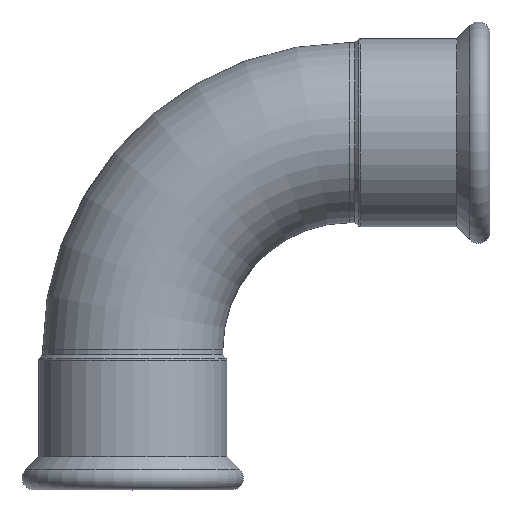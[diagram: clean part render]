
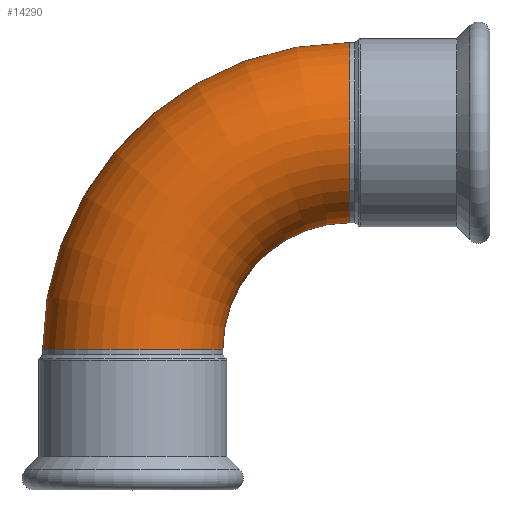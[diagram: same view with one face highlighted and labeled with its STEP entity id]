
A CAD part, top view. The second image highlights one B-rep face of the part: STEP entity #14290.
In plain terms, the highlighted toroidal (fillet/blend) face has major radius 130 mm and minor radius 54 mm.
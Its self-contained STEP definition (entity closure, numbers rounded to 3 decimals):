
#13630=CARTESIAN_POINT('',(1.,54.,0.));
#13640=VERTEX_POINT('',#13630);
#13730=CARTESIAN_POINT('',(1.,-54.,0.))
;
#13740=VERTEX_POINT('',#13730);
#13770=CARTESIAN_POINT('',(1.,0.,0.));
#13780=DIRECTION('',(1.,0.,0.));
#13790=DIRECTION('',(0.,-1.,0.));
#13800=AXIS2_PLACEMENT_3D('',#13770,#13780,#13790);
#13810=CIRCLE('',#13800,54.);
#13820=CARTESIAN_POINT('',(1.,0.,54.));
#13830=VERTEX_POINT('',#13820);
#13840=EDGE_CURVE('',#13830,#13740,#13810,.T.);
#13860=EDGE_CURVE('',#13640,#13830,#13810,.T.);
#13910=CARTESIAN_POINT('',(1.,130.,0.));
#13920=DIRECTION('',(0.,0.,1.));
#13930=DIRECTION('',(-1.,0.,0.));
#13940=AXIS2_PLACEMENT_3D('',#13910,#13920,#13930);
#13950=TOROIDAL_SURFACE('',#13940,130.,54.);
#13960=ORIENTED_EDGE('',*,*,#13840,.F.);
#13970=CARTESIAN_POINT('',(1.,130.,0.));
#13980=DIRECTION('',(0.,0.,1.));
#13990=DIRECTION('',(-1.,0.,0.));
#14000=AXIS2_PLACEMENT_3D('',#13970,#13980,#13990);
#14010=CIRCLE('',#14000,184.);
#14020=CARTESIAN_POINT('',(-183.,130.,0.));
#14030=VERTEX_POINT('',#14020);
#14040=EDGE_CURVE('',#14030,#13740,#14010,.T.);
#14050=ORIENTED_EDGE('',*,*,#14040,.T.);
#14060=CARTESIAN_POINT('',(-129.,130.,0.));
#14070=DIRECTION('',(0.,-1.,0.));
#14080=DIRECTION('',(-1.,0.,0.));
#14090=AXIS2_PLACEMENT_3D('',#14060,#14070,#14080);
#14100=CIRCLE('',#14090,54.);
#14110=CARTESIAN_POINT('',(-129.,130.,54.));
#14120=VERTEX_POINT('',#14110);
#14130=EDGE_CURVE('',#14120,#14030,#14100,.T.);
#14140=ORIENTED_EDGE('',*,*,#14130,.T.);
#14150=CARTESIAN_POINT('',(-75.,130.,0.));
#14160=VERTEX_POINT('',#14150);
#14170=EDGE_CURVE('',#14160,#14120,#14100,.T.);
#14180=ORIENTED_EDGE('',*,*,#14170,.T.);
#14190=CARTESIAN_POINT('',(1.,130.,0.));
#14200=DIRECTION('',(0.,0.,1.));
#14210=DIRECTION('',(-1.,0.,0.));
#14220=AXIS2_PLACEMENT_3D('',#14190,#14200,#14210);
#14230=CIRCLE('',#14220,76.);
#14240=EDGE_CURVE('',#14160,#13640,#14230,.T.);
#14250=ORIENTED_EDGE('',*,*,#14240,.F.);
#14260=ORIENTED_EDGE('',*,*,#13860,.F.);
#14270=EDGE_LOOP('',(#14260,#14250,#14180,#14140,#14050,#13960));
#14280=FACE_OUTER_BOUND('',#14270,.T.);
#14290=ADVANCED_FACE('',(#14280),#13950,.T.);
